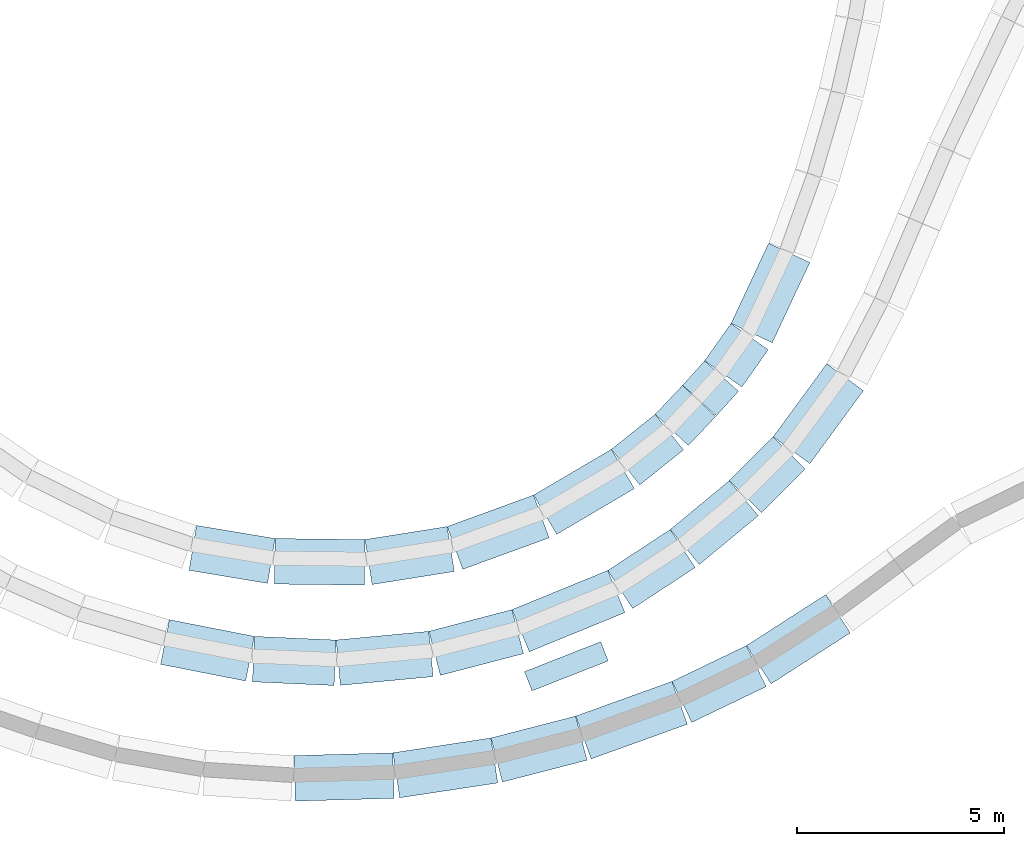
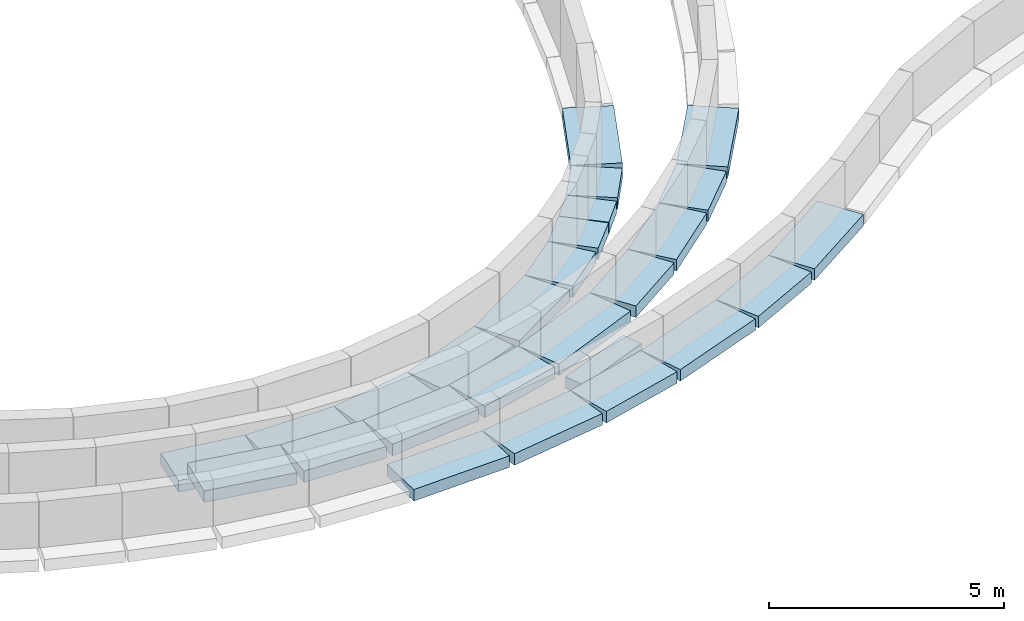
# One storey, part 2 of 6: 26 footings.
"""IFC2X3 building model written with IfcOpenShell, lengths in millimetres."""

from ifc_helpers import new_model, entity, si_unit, converted_unit, direction, origin, origin_with_axes, place, context, project, spatial, faceted_brep, element, save


model = new_model("IFC2X3")

# Units and contexts
model_context = context("Model", 3, precision=1e-05, world=origin(), true_north=direction((0.0, 1.0, 0.0)))
ifc_project = project(units=[si_unit("LENGTHUNIT", "METRE", prefix="MILLI"), si_unit("AREAUNIT", "SQUARE_METRE"), si_unit("VOLUMEUNIT", "CUBIC_METRE"), converted_unit("PLANEANGLEUNIT", "DEGREE", entity("IfcPlaneAngleMeasure", 0.01745), si_unit("PLANEANGLEUNIT", "RADIAN"), dimensions=[0, 0, 0, 0, 0, 0, 0]), si_unit("SOLIDANGLEUNIT", "STERADIAN"), si_unit("MASSUNIT", "GRAM"), si_unit("TIMEUNIT", "SECOND"), si_unit("THERMODYNAMICTEMPERATUREUNIT", "DEGREE_CELSIUS"), si_unit("LUMINOUSINTENSITYUNIT", "LUMEN")], contexts=[model_context])

# Site, building, storey
site_placement = place(None, origin_with_axes())
site = spatial("IfcSite", under=ifc_project, at=site_placement, Name="Default Site", CompositionType="ELEMENT")
building_placement = place(site_placement, origin_with_axes())
building = spatial("IfcBuilding", under=site, at=building_placement, Name="Default Building", CompositionType="ELEMENT")
storey_placement = place(building_placement, origin_with_axes())
storey = spatial("IfcBuildingStorey", under=building, at=storey_placement, Name="Fundação", CompositionType="ELEMENT", Elevation=0.0)

# Footings
footing_1_placement = place(storey_placement, origin_with_axes())
element("IfcFooting", 1, at=footing_1_placement, inside=storey, Name="IfcFooting - IfcFooting - Viga 53 (110/30)", context=model_context, shape_type="Brep", body=[
    faceted_brep([(16352.21888688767, -8122.942955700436, -2100.000029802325), (15574.401399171, -7345.125467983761, -2100.000029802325), (14516.18852285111, -8403.338344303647, -2100.000029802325), (15294.00601056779, -9181.155832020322, -2100.000029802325), (15574.401399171, -7345.125467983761, -2400.000041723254), (14516.18852285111, -8403.338344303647, -2400.000041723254), (15786.53343585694, -7557.257504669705, -2400.000041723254), (14728.32055953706, -8615.47038098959, -2400.000041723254), (16034.02080205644, -7804.744900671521, -2400.000041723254), (14975.80795553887, -8862.957747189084, -2400.000041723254), (16352.21888688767, -8122.942955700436, -2400.000041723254), (15294.00601056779, -9181.155832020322, -2400.000041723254)], [[[0, 1, 2]], [[0, 2, 3]], [[1, 4, 5]], [[1, 5, 2]], [[4, 6, 7]], [[4, 7, 5]], [[6, 8, 9]], [[6, 9, 7]], [[8, 10, 11]], [[8, 11, 9]], [[10, 0, 3]], [[10, 3, 11]], [[5, 3, 2]], [[3, 5, 11]], [[11, 7, 9]], [[0, 4, 1]], [[4, 0, 6]], [[6, 0, 8]], [[8, 0, 10]]]),
])
footing_2_placement = place(storey_placement, origin_with_axes())
element("IfcFooting", 2, at=footing_2_placement, inside=storey, Name="IfcFooting - IfcFooting - Viga 52 (110/30)", context=model_context, shape_type="Brep", body=[
    faceted_brep([(17754.47900244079, -6230.994308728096, -2100.000029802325), (16867.18643852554, -5580.831373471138, -2100.000029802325), (15574.40144964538, -7345.125520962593, -2100.000029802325), (16461.69401356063, -7995.28845621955, -2100.000029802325), (16867.18643852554, -5580.831373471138, -2400.000041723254), (15574.40144964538, -7345.125520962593, -2400.000041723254), (17109.17533584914, -5758.148515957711, -2400.000041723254), (15816.39028736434, -7522.442663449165, -2400.000041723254), (17391.49571606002, -5965.018594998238, -2400.000041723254), (16098.71066757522, -7729.312682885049, -2400.000041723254), (17754.47900244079, -6230.994308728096, -2400.000041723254), (16461.69401356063, -7995.28845621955, -2400.000041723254)], [[[0, 1, 2]], [[0, 2, 3]], [[1, 4, 5]], [[1, 5, 2]], [[4, 6, 7]], [[4, 7, 5]], [[6, 8, 9]], [[6, 9, 7]], [[8, 10, 11]], [[8, 11, 9]], [[10, 0, 3]], [[10, 3, 11]], [[5, 3, 2]], [[3, 5, 11]], [[10, 1, 0]], [[1, 10, 4]], [[4, 8, 6]]]),
])
footing_3_placement = place(storey_placement, origin_with_axes())
element("IfcFooting", 3, at=footing_3_placement, inside=storey, Name="IfcFooting - IfcFooting - Viga 85 (50x30)", context=model_context, shape_type="Brep", body=[
    faceted_brep([(11594.88410922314, -12756.06633354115, -2400.000041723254), (11594.88410922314, -12756.06633354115, -2100.000029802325), (9754.323255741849, -13478.47415138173, -2100.000029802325), (9754.323255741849, -13478.47415138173, -2400.000041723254), (11412.20463486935, -12290.63297439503, -2100.000029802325), (9571.643781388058, -13013.04079223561, -2100.000029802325), (11412.20463486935, -12290.63297439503, -2400.000041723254), (9571.643781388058, -13013.04079223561, -2400.000041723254)], [[[0, 1, 2]], [[0, 2, 3]], [[1, 4, 5]], [[1, 5, 2]], [[4, 6, 7]], [[4, 7, 5]], [[6, 0, 3]], [[6, 3, 7]], [[2, 5, 7]], [[2, 7, 3]], [[0, 6, 4]], [[0, 4, 1]]]),
])
footing_4_placement = place(storey_placement, origin_with_axes())
element("IfcFooting", 4, at=footing_4_placement, inside=storey, Name="IfcFooting - IfcFooting - Viga 54 (110/30)", context=model_context, shape_type="Brep", body=[
    faceted_brep([(15217.31159674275, -9250.938773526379, -2100.000029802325), (14516.18853794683, -8403.338343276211, -2100.000029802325), (13091.75512777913, -9581.609428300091, -2100.000029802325), (13792.87818657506, -10429.20985855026, -2100.000029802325), (14516.18853794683, -8403.338343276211, -2400.000041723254), (13091.75512777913, -9581.609428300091, -2400.000041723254), (14707.40393387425, -8634.502083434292, -2400.000041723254), (13282.97052370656, -9812.773168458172, -2400.000041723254), (14930.48850285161, -8904.193133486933, -2400.000041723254), (13506.05509268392, -10082.46424831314, -2400.000041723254), (15217.31159674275, -9250.938773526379, -2400.000041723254), (13792.87818657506, -10429.20985855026, -2400.000041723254)], [[[0, 1, 2]], [[0, 2, 3]], [[1, 4, 5]], [[1, 5, 2]], [[4, 6, 7]], [[4, 7, 5]], [[6, 8, 9]], [[6, 9, 7]], [[8, 10, 11]], [[8, 11, 9]], [[10, 0, 3]], [[10, 3, 11]], [[5, 3, 2]], [[3, 5, 11]], [[11, 5, 7]], [[11, 7, 9]], [[10, 1, 0]], [[1, 10, 4]], [[4, 10, 8]], [[4, 8, 6]]]),
])
footing_5_placement = place(storey_placement, origin_with_axes())
element("IfcFooting", 5, at=footing_5_placement, inside=storey, Name="IfcFooting - IfcFooting - Viga 55 (110/30)", context=model_context, shape_type="Brep", body=[
    faceted_brep([(13694.75328835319, -10501.60570559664, -2100.000029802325), (13091.75515087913, -9581.609447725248, -2100.000029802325), (11582.21781166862, -10571.0137721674, -2100.000029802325), (12185.21594914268, -11491.01003003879, -2100.000029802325), (13091.75515087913, -9581.609447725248, -2400.000041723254), (11582.21781166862, -10571.0137721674, -2400.000041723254), (13256.20919379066, -9832.517524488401, -2400.000041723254), (11746.6717949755, -10821.92184520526, -2400.000041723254), (13448.07225378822, -10125.2435941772, -2400.000041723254), (11938.53485497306, -11114.64794469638, -2400.000041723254), (13694.75328835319, -10501.60570559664, -2400.000041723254), (12185.21594914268, -11491.01003003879, -2400.000041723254)], [[[0, 1, 2]], [[0, 2, 3]], [[1, 4, 5]], [[1, 5, 2]], [[4, 6, 7]], [[4, 7, 5]], [[6, 8, 9]], [[6, 9, 7]], [[8, 10, 11]], [[8, 11, 9]], [[10, 0, 3]], [[10, 3, 11]], [[5, 3, 2]], [[3, 5, 11]], [[11, 5, 7]], [[11, 7, 9]], [[10, 1, 0]], [[1, 10, 4]], [[4, 10, 8]]]),
])
footing_6_placement = place(storey_placement, origin_with_axes())
element("IfcFooting", 6, at=footing_6_placement, inside=storey, Name="IfcFooting - IfcFooting - Viga 60 (110/30)", context=model_context, shape_type="Brep", body=[
    faceted_brep([(1000.396334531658, -11758.45762474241, -2100.000029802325), (788.4993785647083, -12837.85545212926, -2100.000029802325), (2842.777454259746, -13241.13138897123, -2100.000029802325), (3054.674410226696, -12161.73356158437, -2100.000029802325), (788.4993785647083, -12837.85545212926, -2400.000041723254), (2842.777454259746, -13241.13138897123, -2400.000041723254), (875.1844400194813, -12396.28359807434, -2400.000041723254), (2929.462575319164, -12799.55955726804, -2400.000041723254), (942.6062339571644, -12052.83882600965, -2400.000041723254), (2996.884369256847, -12456.11480382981, -2400.000041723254), (1000.396334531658, -11758.45762474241, -2400.000041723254), (3054.674410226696, -12161.73356158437, -2400.000041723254)], [[[0, 1, 2]], [[0, 2, 3]], [[1, 4, 5]], [[1, 5, 2]], [[4, 6, 7]], [[4, 7, 5]], [[6, 8, 9]], [[6, 9, 7]], [[8, 10, 11]], [[8, 11, 9]], [[10, 0, 3]], [[10, 3, 11]], [[5, 3, 2]], [[3, 5, 11]], [[11, 7, 9]], [[10, 1, 0]], [[1, 10, 4]], [[4, 10, 8]], [[4, 8, 6]]]),
])
footing_7_placement = place(storey_placement, origin_with_axes())
element("IfcFooting", 7, at=footing_7_placement, inside=storey, Name="IfcFooting - IfcFooting - Viga 58 (110/30)", context=model_context, shape_type="Brep", body=[
    faceted_brep([(7367.758863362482, -13134.73417990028, -2100.000029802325), (7265.054815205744, -12039.53930370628, -2100.000029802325), (5025.784128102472, -12249.5314144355, -2100.000029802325), (5128.48817625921, -13344.7262906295, -2100.000029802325), (7265.054815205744, -12039.53930370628, -2400.000041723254), (5025.784128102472, -12249.5314144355, -2400.000041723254), (7293.065064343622, -12338.22881810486, -2400.000041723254), (5053.794258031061, -12548.22092883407, -2400.000041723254), (7325.74354926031, -12686.69991249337, -2400.000041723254), (5086.472862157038, -12896.6920339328, -2400.000041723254), (7367.758863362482, -13134.73417990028, -2400.000041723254), (5128.48817625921, -13344.7262906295, -2400.000041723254)], [[[0, 1, 2]], [[0, 2, 3]], [[1, 4, 5]], [[1, 5, 2]], [[4, 6, 7]], [[4, 7, 5]], [[6, 8, 9]], [[6, 9, 7]], [[8, 10, 11]], [[8, 11, 9]], [[10, 0, 3]], [[10, 3, 11]], [[5, 3, 2]], [[3, 5, 11]], [[11, 5, 7]], [[11, 7, 9]], [[10, 1, 0]], [[1, 10, 8]], [[1, 8, 4]], [[4, 8, 6]]]),
])
footing_8_placement = place(storey_placement, origin_with_axes())
element("IfcFooting", 8, at=footing_8_placement, inside=storey, Name="IfcFooting - IfcFooting - Viga 59 (110/30)", context=model_context, shape_type="Brep", body=[
    faceted_brep([(3054.674428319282, -12161.73359024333, -2100.000029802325), (3005.726378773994, -13260.64398157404, -2100.000029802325), (4976.836007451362, -13348.44180214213, -2100.000029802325), (5025.78405699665, -12249.53141081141, -2100.000029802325), (3005.726378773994, -13260.64398157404, -2400.000041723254), (4976.836007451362, -13348.44180214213, -2400.000041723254), (3025.750559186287, -12811.08972447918, -2400.000041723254), (4996.860247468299, -12898.88756739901, -2400.000041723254), (3041.324954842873, -12461.4364134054, -2400.000041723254), (5012.434583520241, -12549.23424887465, -2400.000041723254), (3054.674428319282, -12161.73359024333, -2400.000041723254), (5025.78405699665, -12249.53141081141, -2400.000041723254)], [[[0, 1, 2]], [[0, 2, 3]], [[1, 4, 5]], [[1, 5, 2]], [[4, 6, 7]], [[4, 7, 5]], [[6, 8, 9]], [[6, 9, 7]], [[8, 10, 11]], [[8, 11, 9]], [[10, 0, 3]], [[10, 3, 11]], [[5, 3, 2]], [[3, 5, 11]], [[11, 5, 7]], [[11, 7, 9]], [[10, 1, 0]], [[1, 10, 4]], [[4, 8, 6]]]),
])
footing_9_placement = place(storey_placement, origin_with_axes())
element("IfcFooting", 9, at=footing_9_placement, inside=storey, Name="IfcFooting - IfcFooting - Viga 56 (110/30)", context=model_context, shape_type="Brep", body=[
    faceted_brep([(11998.6806105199, -11589.12902247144, -2100.000029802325), (11582.21777187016, -10571.01377021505, -2100.000029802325), (9271.611947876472, -11516.17359291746, -2100.000029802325), (9688.074786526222, -12534.28884517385, -2100.000029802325), (11582.21777187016, -10571.01377021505, -2400.000041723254), (9271.611947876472, -11516.17359291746, -2400.000041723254), (11695.79853521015, -10848.68159066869, -2400.000041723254), (9385.192651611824, -11793.84138356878, -2400.000041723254), (11828.30943570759, -11172.6273215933, -2400.000041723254), (9517.70367131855, -12117.78714429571, -2400.000041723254), (11998.6806105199, -11589.12902247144, -2400.000041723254), (9688.074786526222, -12534.28884517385, -2400.000041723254)], [[[0, 1, 2]], [[0, 2, 3]], [[1, 4, 5]], [[1, 5, 2]], [[4, 6, 7]], [[4, 7, 5]], [[6, 8, 9]], [[6, 9, 7]], [[8, 10, 11]], [[8, 11, 9]], [[10, 0, 3]], [[10, 3, 11]], [[5, 3, 2]], [[3, 5, 11]], [[11, 5, 7]], [[11, 7, 9]], [[10, 1, 0]], [[1, 10, 4]], [[4, 10, 8]]]),
])
footing_10_placement = place(storey_placement, origin_with_axes())
element("IfcFooting", 10, at=footing_10_placement, inside=storey, Name="IfcFooting - IfcFooting - Viga 57 (110/30)", context=model_context, shape_type="Brep", body=[
    faceted_brep([(9549.234276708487, -12580.56345500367, -2100.000029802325), (9271.611874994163, -11516.1736003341, -2100.000029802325), (7265.054827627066, -12039.53930653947, -2100.000029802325), (7542.677229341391, -13103.92916120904, -2100.000029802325), (9271.611874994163, -11516.1736003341, -2400.000041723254), (7265.054827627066, -12039.53930653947, -2400.000041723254), (9347.327118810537, -11806.46175064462, -2400.000041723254), (7340.770011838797, -12329.82744381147, -2400.000041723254), (9435.661440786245, -12145.13124443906, -2400.000041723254), (7429.10439341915, -12668.49693574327, -2400.000041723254), (9549.234276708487, -12580.56345500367, -2400.000041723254), (7542.677229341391, -13103.92916120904, -2400.000041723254)], [[[0, 1, 2]], [[0, 2, 3]], [[1, 4, 5]], [[1, 5, 2]], [[4, 6, 7]], [[4, 7, 5]], [[6, 8, 9]], [[6, 9, 7]], [[8, 10, 11]], [[8, 11, 9]], [[10, 0, 3]], [[10, 3, 11]], [[5, 3, 2]], [[3, 5, 11]], [[11, 5, 7]], [[11, 7, 9]], [[10, 1, 0]], [[1, 10, 4]], [[4, 10, 8]], [[4, 8, 6]]]),
])
footing_11_placement = place(storey_placement, origin_with_axes())
element("IfcFooting", 11, at=footing_11_placement, inside=storey, Name="IfcFooting - IfcFooting - Viga 197 (110/30)", context=model_context, shape_type="Brep", body=[
    faceted_brep([(14738.90597265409, -6246.287799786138, -3450.000000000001), (13921.80859189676, -5509.84237284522, -3450.000000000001), (13388.50552480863, -6101.550317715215, -3450.000000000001), (14205.60290556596, -6837.995744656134, -3450.000000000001), (13921.80859189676, -5509.84237284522, -3750.000011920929), (13388.50552480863, -6101.550317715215, -3750.000011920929), (14144.65333413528, -5710.691131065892, -3750.000011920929), (13611.35024469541, -6302.399061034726, -3750.000011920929), (14404.6388630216, -5945.014677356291, -3750.000011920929), (13871.33578103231, -6536.722607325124, -3750.000011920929), (14738.90597265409, -6246.287799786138, -3750.000011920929), (14205.60290556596, -6837.995744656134, -3750.000011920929)], [[[0, 1, 2]], [[0, 2, 3]], [[1, 4, 5]], [[1, 5, 2]], [[4, 6, 7]], [[4, 7, 5]], [[6, 8, 9]], [[6, 9, 7]], [[8, 10, 11]], [[8, 11, 9]], [[10, 0, 3]], [[10, 3, 11]], [[5, 3, 2]], [[3, 5, 11]], [[10, 1, 0]], [[1, 10, 4]]]),
])
footing_12_placement = place(storey_placement, origin_with_axes())
element("IfcFooting", 12, at=footing_12_placement, inside=storey, Name="IfcFooting - IfcFooting - Viga 198 (110/30)", context=model_context, shape_type="Brep", body=[
    faceted_brep([(15456.45472815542, -5244.078943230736, -3450.000000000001), (14558.07513406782, -4609.323778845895, -3450.000000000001), (13921.80857470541, -5509.842404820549, -3450.000000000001), (14820.18816879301, -6144.597569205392, -3450.000000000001), (14558.07513406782, -4609.323778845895, -3750.000011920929), (13921.80857470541, -5509.842404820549, -3750.000011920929), (14803.08775266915, -4782.438793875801, -3750.000011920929), (14166.82121565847, -5682.957449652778, -3750.000011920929), (15088.93579652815, -4984.40636108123, -3750.000011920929), (14452.6692520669, -5884.924987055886, -3750.000011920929), (15456.45472815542, -5244.078943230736, -3750.000011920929), (14820.18816879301, -6144.597569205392, -3750.000011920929)], [[[0, 1, 2]], [[0, 2, 3]], [[1, 4, 5]], [[1, 5, 2]], [[4, 6, 7]], [[4, 7, 5]], [[6, 8, 9]], [[6, 9, 7]], [[8, 10, 11]], [[8, 11, 9]], [[10, 0, 3]], [[10, 3, 11]], [[5, 3, 2]], [[3, 5, 11]], [[11, 5, 7]], [[10, 1, 0]], [[1, 10, 4]], [[4, 8, 6]]]),
])
footing_13_placement = place(storey_placement, origin_with_axes())
element("IfcFooting", 13, at=footing_13_placement, inside=storey, Name="IfcFooting - IfcFooting - Viga 195 (110/30)", context=model_context, shape_type="Brep", body=[
    faceted_brep([(13413.07335177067, -7662.303308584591, -3450.000000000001), (12726.5667972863, -6802.821620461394, -3450.000000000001), (11670.0721291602, -7646.691191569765, -3450.000000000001), (12356.57868364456, -8506.172879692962, -3450.000000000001), (12726.5667972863, -6802.821620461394, -3750.000011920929), (11670.0721291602, -7646.691191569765, -3750.000011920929), (12913.79584947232, -7037.225707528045, -3750.000011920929), (11857.30122604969, -7881.095289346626, -3750.000011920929), (13132.22973623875, -7310.697152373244, -3750.000011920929), (12075.73511281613, -8154.566749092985, -3750.000011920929), (13413.07335177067, -7662.303308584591, -3750.000011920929), (12356.57868364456, -8506.172879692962, -3750.000011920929)], [[[0, 1, 2]], [[0, 2, 3]], [[1, 4, 5]], [[1, 5, 2]], [[4, 6, 7]], [[4, 7, 5]], [[6, 8, 9]], [[6, 9, 7]], [[8, 10, 11]], [[8, 11, 9]], [[10, 0, 3]], [[10, 3, 11]], [[5, 3, 2]], [[3, 5, 11]], [[11, 5, 7]], [[10, 1, 0]], [[1, 10, 4]]]),
])
footing_14_placement = place(storey_placement, origin_with_axes())
element("IfcFooting", 14, at=footing_14_placement, inside=storey, Name="IfcFooting - IfcFooting - Viga 196 (110/30)", context=model_context, shape_type="Brep", body=[
    faceted_brep([(14188.43235450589, -6856.611246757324, -3450.000000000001), (13388.50549983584, -6101.550324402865, -3450.000000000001), (12726.56681018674, -6802.82160877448, -3450.000000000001), (13526.49366485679, -7557.88253112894, -3450.000000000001), (13388.50549983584, -6101.550324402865, -3750.000011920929), (12726.56681018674, -6802.82160877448, -3750.000011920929), (13606.66737335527, -6307.476027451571, -3750.000011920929), (12944.72869115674, -7008.747322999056, -3750.000011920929), (13861.18956285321, -6547.722681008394, -3750.000011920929), (13199.25086575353, -7248.99397655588, -3750.000011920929), (14188.43235450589, -6856.611246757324, -3750.000011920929), (13526.49366485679, -7557.88253112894, -3750.000011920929)], [[[0, 1, 2]], [[0, 2, 3]], [[1, 4, 5]], [[1, 5, 2]], [[4, 6, 7]], [[4, 7, 5]], [[6, 8, 9]], [[6, 9, 7]], [[8, 10, 11]], [[8, 11, 9]], [[10, 0, 3]], [[10, 3, 11]], [[5, 3, 2]], [[3, 5, 11]], [[0, 4, 1]], [[4, 0, 8]], [[8, 0, 10]]]),
])
footing_15_placement = place(storey_placement, origin_with_axes())
element("IfcFooting", 15, at=footing_15_placement, inside=storey, Name="IfcFooting - IfcFooting - Viga 12 (110/30)", context=model_context, shape_type="Brep", body=[
    faceted_brep([(3552.307318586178, -9800.05170642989, -3450.000000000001), (3539.602707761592, -10899.97829734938, -3450.000000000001), (5709.814738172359, -10925.04514991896, -3450.000000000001), (5722.519348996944, -9825.118558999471, -3450.000000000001), (3539.602707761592, -10899.97829734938, -3750.000011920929), (5709.814738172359, -10925.04514991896, -3750.000011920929), (3544.800113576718, -10450.00832765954, -3750.000011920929), (5715.012024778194, -10475.0751876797, -3750.000011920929), (3548.842500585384, -10100.03166138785, -3750.000011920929), (5719.054411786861, -10125.09852885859, -3750.000011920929), (3552.307318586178, -9800.05170642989, -3750.000011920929), (5722.519348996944, -9825.118558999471, -3750.000011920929)], [[[0, 1, 2]], [[0, 2, 3]], [[1, 4, 5]], [[1, 5, 2]], [[4, 6, 7]], [[4, 7, 5]], [[6, 8, 9]], [[6, 9, 7]], [[8, 10, 11]], [[8, 11, 9]], [[10, 0, 3]], [[10, 3, 11]], [[5, 3, 2]], [[3, 5, 11]], [[11, 5, 7]], [[11, 7, 9]], [[10, 1, 0]], [[1, 10, 4]], [[4, 10, 8]], [[4, 8, 6]]]),
])
footing_16_placement = place(storey_placement, origin_with_axes())
element("IfcFooting", 16, at=footing_16_placement, inside=storey, Name="IfcFooting - IfcFooting - Viga 14 (110/30)", context=model_context, shape_type="Brep", body=[
    faceted_brep([(10169.47441347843, -9784.884557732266, -3450.000000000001), (9793.3332825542, -8751.193181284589, -3450.000000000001), (7707.253267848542, -9510.278866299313, -3450.000000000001), (8083.394398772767, -10543.97024274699, -3450.000000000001), (9793.3332825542, -8751.193181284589, -3750.000011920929), (7707.253267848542, -9510.278866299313, -3750.000011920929), (9895.917227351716, -9033.108965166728, -3750.000011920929), (7809.837272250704, -9792.1947097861, -3750.000011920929), (10015.59846647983, -9362.010792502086, -3750.000011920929), (7929.518511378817, -10121.09650731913, -3750.000011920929), (10169.47441347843, -9784.884557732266, -3750.000011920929), (8083.394398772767, -10543.97024274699, -3750.000011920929)], [[[0, 1, 2]], [[0, 2, 3]], [[1, 4, 5]], [[1, 5, 2]], [[4, 6, 7]], [[4, 7, 5]], [[6, 8, 9]], [[6, 9, 7]], [[8, 10, 11]], [[8, 11, 9]], [[10, 0, 3]], [[10, 3, 11]], [[5, 3, 2]], [[3, 5, 11]], [[11, 5, 7]], [[10, 1, 0]], [[1, 10, 4]], [[4, 10, 8]], [[4, 8, 6]]]),
])
footing_17_placement = place(storey_placement, origin_with_axes())
element("IfcFooting", 17, at=footing_17_placement, inside=storey, Name="IfcFooting - IfcFooting - Viga 15 (110/30)", context=model_context, shape_type="Brep", body=[
    faceted_brep([(12227.99614262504, -8594.70005895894, -3450.000000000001), (11670.07217001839, -7646.691238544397, -3450.000000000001), (9793.333323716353, -8751.193156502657, -3450.000000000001), (10351.25729632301, -9699.2019769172, -3450.000000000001), (11670.07217001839, -7646.691238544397, -3750.000011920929), (9793.333323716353, -8751.193156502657, -3750.000011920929), (11822.23323178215, -7905.239081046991, -3750.000011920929), (9945.494445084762, -9009.741043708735, -3750.000011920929), (11999.75452017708, -8206.878250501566, -3750.000011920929), (10123.01567387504, -9311.380242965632, -3750.000011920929), (12227.99614262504, -8594.70005895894, -3750.000011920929), (10351.25729632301, -9699.2019769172, -3750.000011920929)], [[[0, 1, 2]], [[0, 2, 3]], [[1, 4, 5]], [[1, 5, 2]], [[4, 6, 7]], [[4, 7, 5]], [[6, 8, 9]], [[6, 9, 7]], [[8, 10, 11]], [[8, 11, 9]], [[10, 0, 3]], [[10, 3, 11]], [[5, 3, 2]], [[3, 5, 11]], [[11, 5, 7]], [[11, 7, 9]], [[10, 1, 0]], [[1, 10, 4]], [[4, 10, 8]]]),
])
footing_18_placement = place(storey_placement, origin_with_axes())
element("IfcFooting", 18, at=footing_18_placement, inside=storey, Name="IfcFooting - IfcFooting - Viga 16 (110/30)", context=model_context, shape_type="Brep", body=[
    faceted_brep([(16461.77062483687, -3137.661012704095, -3450.000000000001), (15465.56840183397, -2671.2051954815, -3450.000000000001), (14558.07516070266, -4609.323772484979, -3450.000000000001), (15554.27738370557, -5075.779589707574, -3450.000000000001), (15465.56840183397, -2671.2051954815, -3750.000011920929), (14558.07516070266, -4609.323772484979, -3750.000011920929), (15737.2599253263, -2798.420342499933, -3750.000011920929), (14829.76666184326, -4736.538979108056, -3750.000011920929), (16054.23334332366, -2946.838172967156, -3750.000011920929), (15146.74010964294, -4884.956749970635, -3750.000011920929), (16461.77062483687, -3137.661012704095, -3750.000011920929), (15554.27738370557, -5075.779589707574, -3750.000011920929)], [[[0, 1, 2]], [[0, 2, 3]], [[1, 4, 5]], [[1, 5, 2]], [[4, 6, 7]], [[4, 7, 5]], [[6, 8, 9]], [[6, 9, 7]], [[8, 10, 11]], [[8, 11, 9]], [[10, 0, 3]], [[10, 3, 11]], [[5, 3, 2]], [[3, 5, 11]], [[10, 1, 0]], [[1, 10, 4]], [[4, 8, 6]]]),
])
footing_19_placement = place(storey_placement, origin_with_axes())
element("IfcFooting", 19, at=footing_19_placement, inside=storey, Name="IfcFooting - IfcFooting - Viga 13 (110/30)", context=model_context, shape_type="Brep", body=[
    faceted_brep([(7879.592137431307, -10596.69469855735, -3450.000000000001), (7707.253294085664, -9510.278871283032, -3450.000000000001), (5722.519354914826, -9825.1185324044, -3450.000000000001), (5894.858198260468, -10911.53435967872, -3450.000000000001), (7707.253294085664, -9510.278871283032, -3750.000011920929), (5722.519354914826, -9825.1185324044, -3750.000011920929), (7754.254834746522, -9806.574096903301, -3750.000011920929), (5769.52083597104, -10121.41376547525, -3750.000011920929), (7809.089856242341, -10152.25185267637, -3750.000011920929), (5824.355917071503, -10467.09152124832, -3750.000011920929), (7879.592137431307, -10596.69469855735, -3750.000011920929), (5894.858198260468, -10911.53435967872, -3750.000011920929)], [[[0, 1, 2]], [[0, 2, 3]], [[1, 4, 5]], [[1, 5, 2]], [[4, 6, 7]], [[4, 7, 5]], [[6, 8, 9]], [[6, 9, 7]], [[8, 10, 11]], [[8, 11, 9]], [[10, 0, 3]], [[10, 3, 11]], [[5, 3, 2]], [[3, 5, 11]], [[11, 5, 7]], [[11, 7, 9]], [[10, 1, 0]], [[1, 10, 4]], [[4, 10, 8]], [[4, 8, 6]]]),
])
footing_20_placement = place(storey_placement, origin_with_axes())
element("IfcFooting", 20, at=footing_20_placement, inside=storey, Name="IfcFooting - IfcFooting - Viga 11 (110/30)", context=model_context, shape_type="Brep", body=[
    faceted_brep([(1655.872636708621, -9483.979233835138, -3450.000000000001), (1475.033753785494, -10569.01256117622, -3450.000000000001), (3371.468478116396, -10885.08499536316, -3450.000000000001), (3552.307361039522, -9800.051668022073, -3450.000000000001), (1475.033753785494, -10569.01256117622, -3750.000011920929), (3371.468478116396, -10885.08499536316, -3750.000011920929), (1549.01331034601, -10125.13528141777, -3750.000011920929), (3445.448034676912, -10441.20774540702, -3750.000011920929), (1606.552952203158, -9779.89740047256, -3750.000011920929), (3502.98767653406, -10095.96985701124, -3750.000011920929), (1655.872636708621, -9483.979233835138, -3750.000011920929), (3552.307361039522, -9800.051668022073, -3750.000011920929)], [[[0, 1, 2]], [[0, 2, 3]], [[1, 4, 5]], [[1, 5, 2]], [[4, 6, 7]], [[4, 7, 5]], [[6, 8, 9]], [[6, 9, 7]], [[8, 10, 11]], [[8, 11, 9]], [[10, 0, 3]], [[10, 3, 11]], [[5, 3, 2]], [[3, 5, 11]], [[11, 5, 7]], [[10, 1, 0]], [[1, 10, 4]]]),
])
footing_21_placement = place(storey_placement, origin_with_axes())
element("IfcFooting", 21, at=footing_21_placement, inside=storey, Name="IfcFooting - IfcFooting - Viga 103 (110/30)", context=model_context, shape_type="Brep", body=[
    faceted_brep([(13506.21604200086, -14283.77802825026, -1200.00002980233), (13133.45461364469, -13248.86311745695, -1200.00002980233), (10808.53819127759, -14086.26444792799, -1200.00002980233), (11181.29961963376, -15121.17935872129, -1200.00002980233), (13133.45461364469, -13248.86311745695, -1500.000041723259), (10808.53819127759, -14086.26444792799, -1500.000041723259), (13235.1168322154, -13531.11262774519, -1500.000041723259), (10910.20046945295, -14368.51397311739, -1500.000041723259), (13353.72268434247, -13860.40373301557, -1500.000041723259), (11028.80632158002, -14697.80506348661, -1500.000041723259), (13506.21604200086, -14283.77802825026, -1500.000041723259), (11181.29961963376, -15121.17935872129, -1500.000041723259)], [[[0, 1, 2]], [[0, 2, 3]], [[1, 4, 5]], [[1, 5, 2]], [[4, 6, 7]], [[4, 7, 5]], [[6, 8, 9]], [[6, 9, 7]], [[8, 10, 11]], [[8, 11, 9]], [[10, 0, 3]], [[10, 3, 11]], [[5, 3, 2]], [[3, 5, 11]], [[11, 5, 7]], [[11, 7, 9]], [[10, 1, 0]], [[1, 10, 4]], [[4, 10, 8]], [[4, 8, 6]]]),
])
footing_22_placement = place(storey_placement, origin_with_axes())
element("IfcFooting", 22, at=footing_22_placement, inside=storey, Name="IfcFooting - IfcFooting - Viga 101 (110/30)", context=model_context, shape_type="Brep", body=[
    faceted_brep([(17437.86474653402, -12079.06378620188, -1200.00002980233), (16842.64829345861, -11154.01391499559, -1200.00002980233), (14930.4768700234, -12384.38649290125, -1200.00002980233), (15525.69332309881, -13309.43636410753, -1200.00002980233), (16842.64829345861, -11154.01391499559, -1500.000041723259), (14930.4768700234, -12384.38649290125, -1500.000041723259), (17004.98005338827, -11406.30022995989, -1500.000041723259), (15092.80857034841, -12636.67283766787, -1500.000041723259), (17194.36713644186, -11700.63428395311, -1500.000041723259), (15282.195653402, -12931.00689166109, -1500.000041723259), (17437.86474653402, -12079.06378620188, -1500.000041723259), (15525.69332309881, -13309.43636410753, -1500.000041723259)], [[[0, 1, 2]], [[0, 2, 3]], [[1, 4, 5]], [[1, 5, 2]], [[4, 6, 7]], [[4, 7, 5]], [[6, 8, 9]], [[6, 9, 7]], [[8, 10, 11]], [[8, 11, 9]], [[10, 0, 3]], [[10, 3, 11]], [[5, 3, 2]], [[3, 5, 11]], [[11, 5, 7]], [[10, 1, 0]], [[1, 10, 4]], [[4, 10, 8]]]),
])
footing_23_placement = place(storey_placement, origin_with_axes())
element("IfcFooting", 23, at=footing_23_placement, inside=storey, Name="IfcFooting - IfcFooting - Viga 102 (110/30)", context=model_context, shape_type="Brep", body=[
    faceted_brep([(15407.33530524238, -13375.65134267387, -1200.00002980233), (14930.47680857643, -12384.38647042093, -1200.00002980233), (13133.45458510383, -13248.86309902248, -1200.00002980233), (13610.31308176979, -14240.12797127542, -1200.00002980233), (14930.47680857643, -12384.38647042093, -1500.000041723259), (13133.45458510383, -13248.86309902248, -1500.000041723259), (15060.52913668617, -12654.73144303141, -1500.000041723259), (13263.50691321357, -13519.20806418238, -1500.000041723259), (15212.25681307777, -12970.13389120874, -1500.000041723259), (13415.23458960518, -13834.61051235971, -1500.000041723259), (15407.33530524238, -13375.65134267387, -1500.000041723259), (13610.31308176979, -14240.12797127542, -1500.000041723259)], [[[0, 1, 2]], [[0, 2, 3]], [[1, 4, 5]], [[1, 5, 2]], [[4, 6, 7]], [[4, 7, 5]], [[6, 8, 9]], [[6, 9, 7]], [[8, 10, 11]], [[8, 11, 9]], [[10, 0, 3]], [[10, 3, 11]], [[5, 3, 2]], [[3, 5, 11]], [[11, 7, 9]], [[10, 1, 0]], [[1, 10, 4]], [[4, 10, 8]]]),
])
footing_24_placement = place(storey_placement, origin_with_axes())
element("IfcFooting", 24, at=footing_24_placement, inside=storey, Name="IfcFooting - IfcFooting - Viga 104 (110/30)", context=model_context, shape_type="Brep", body=[
    faceted_brep([(11083.46561538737, -15151.35360334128, -1200.00002980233), (10808.53817808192, -14086.26446697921, -1200.00002980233), (8763.973036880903, -14614.02029369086, -1200.00002980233), (9038.900474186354, -15679.10943005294, -1200.00002980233), (10808.53817808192, -14086.26446697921, -1500.000041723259), (8763.973036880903, -14614.02029369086, -1500.000041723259), (10883.51843702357, -14376.74329254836, -1500.000041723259), (8838.953295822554, -14904.4991434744, -1500.000041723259), (10970.99534618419, -14715.63532028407, -1500.000041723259), (8926.430145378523, -15243.39116189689, -1500.000041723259), (11083.46561538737, -15151.35360334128, -1500.000041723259), (9038.900474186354, -15679.10943005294, -1500.000041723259)], [[[0, 1, 2]], [[0, 2, 3]], [[1, 4, 5]], [[1, 5, 2]], [[4, 6, 7]], [[4, 7, 5]], [[6, 8, 9]], [[6, 9, 7]], [[8, 10, 11]], [[8, 11, 9]], [[10, 0, 3]], [[10, 3, 11]], [[5, 3, 2]], [[3, 5, 11]], [[11, 5, 7]], [[11, 7, 9]], [[10, 1, 0]], [[1, 10, 4]], [[4, 10, 8]], [[4, 8, 6]]]),
])
footing_25_placement = place(storey_placement, origin_with_axes())
element("IfcFooting", 25, at=footing_25_placement, inside=storey, Name="IfcFooting - IfcFooting - Viga 105 (110/30)", context=model_context, shape_type="Brep", body=[
    faceted_brep([(8928.266963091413, -15701.68175470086, -1200.00002980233), (8763.973077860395, -14614.02024995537, -1200.00002980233), (6396.389922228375, -14971.6494299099, -1200.00002980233), (6560.683807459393, -16059.31093465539, -1200.00002980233), (8763.973077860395, -14614.02024995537, -1500.000041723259), (6396.389922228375, -14971.6494299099, -1500.000041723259), (8808.780511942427, -14910.65522205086, -1500.000041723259), (6441.197356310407, -15268.28437220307, -1500.000041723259), (8861.055811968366, -15256.72934126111, -1500.000041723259), (6493.472656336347, -15614.35847651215, -1500.000041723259), (8928.266963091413, -15701.68175470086, -1500.000041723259), (6560.683807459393, -16059.31093465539, -1500.000041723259)], [[[0, 1, 2]], [[0, 2, 3]], [[1, 4, 5]], [[1, 5, 2]], [[4, 6, 7]], [[4, 7, 5]], [[6, 8, 9]], [[6, 9, 7]], [[8, 10, 11]], [[8, 11, 9]], [[10, 0, 3]], [[10, 3, 11]], [[5, 3, 2]], [[3, 5, 11]], [[11, 5, 7]], [[11, 7, 9]], [[10, 1, 0]], [[1, 10, 8]], [[1, 8, 4]]]),
])
footing_26_placement = place(storey_placement, origin_with_axes())
element("IfcFooting", 26, at=footing_26_placement, inside=storey, Name="IfcFooting - IfcFooting - Viga 106 (110/30)", context=model_context, shape_type="Brep", body=[
    faceted_brep([(6427.921384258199, -16071.19738288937, -1200.00002980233), (6396.389931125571, -14971.64940067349, -1200.00002980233), (4008.82753698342, -15040.1170177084, -1200.00002980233), (4040.358990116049, -16139.66499992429, -1200.00002980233), (6396.389931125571, -14971.64940067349, -1500.000041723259), (4008.82753698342, -15040.1170177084, -1500.000041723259), (6404.989450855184, -15271.52615018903, -1500.000041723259), (4017.426937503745, -15339.99372252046, -1500.000041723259), (6415.022223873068, -15621.38231822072, -1500.000041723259), (4027.459710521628, -15689.84990545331, -1500.000041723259), (6427.921384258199, -16071.19738288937, -1500.000041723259), (4040.358990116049, -16139.66499992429, -1500.000041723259)], [[[0, 1, 2]], [[0, 2, 3]], [[1, 4, 5]], [[1, 5, 2]], [[4, 6, 7]], [[4, 7, 5]], [[6, 8, 9]], [[6, 9, 7]], [[8, 10, 11]], [[8, 11, 9]], [[10, 0, 3]], [[10, 3, 11]], [[5, 3, 2]], [[3, 5, 11]], [[11, 5, 7]], [[10, 1, 0]], [[1, 10, 4]], [[4, 10, 8]]]),
])

save(model, "model.ifc")
